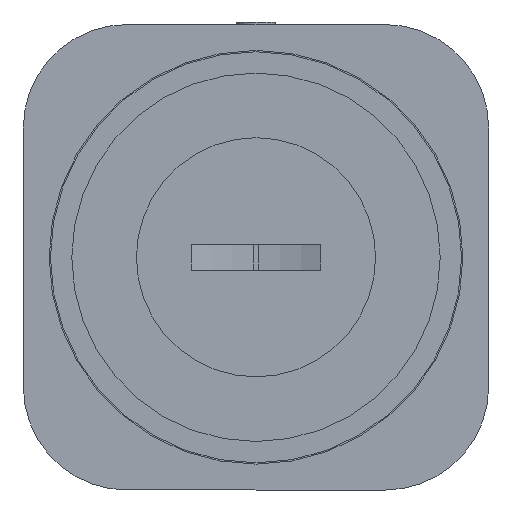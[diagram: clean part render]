
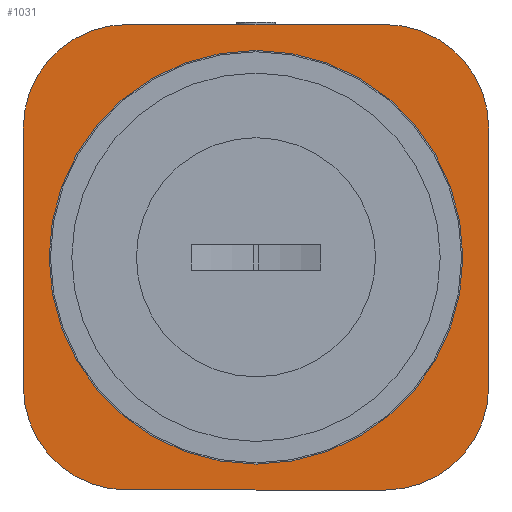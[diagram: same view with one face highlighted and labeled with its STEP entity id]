
A CAD part, front view. The second image highlights one B-rep face of the part: STEP entity #1031.
In plain terms, the highlighted planar face has unit normal (0, -1, 0).
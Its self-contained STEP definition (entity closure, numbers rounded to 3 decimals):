
#18=FACE_BOUND('',#137,.T.);
#31=PLANE('',#1118);
#71=FACE_OUTER_BOUND('',#136,.T.);
#136=EDGE_LOOP('',(#725,#726,#727,#728,#729,#730,#731,#732));
#137=EDGE_LOOP('',(#733));
#211=LINE('',#1602,#305);
#212=LINE('',#1606,#306);
#213=LINE('',#1610,#307);
#214=LINE('',#1613,#308);
#305=VECTOR('',#1270,10.);
#306=VECTOR('',#1273,10.);
#307=VECTOR('',#1276,10.);
#308=VECTOR('',#1279,10.);
#395=CIRCLE('',#1115,16.);
#397=CIRCLE('',#1119,8.);
#398=CIRCLE('',#1120,8.);
#399=CIRCLE('',#1121,8.);
#400=CIRCLE('',#1122,8.);
#455=VERTEX_POINT('',#1591);
#457=VERTEX_POINT('',#1598);
#458=VERTEX_POINT('',#1599);
#459=VERTEX_POINT('',#1601);
#460=VERTEX_POINT('',#1603);
#461=VERTEX_POINT('',#1605);
#462=VERTEX_POINT('',#1607);
#463=VERTEX_POINT('',#1609);
#464=VERTEX_POINT('',#1611);
#560=EDGE_CURVE('',#455,#455,#395,.T.);
#563=EDGE_CURVE('',#457,#458,#397,.T.);
#564=EDGE_CURVE('',#457,#459,#211,.T.);
#565=EDGE_CURVE('',#460,#459,#398,.T.);
#566=EDGE_CURVE('',#460,#461,#212,.T.);
#567=EDGE_CURVE('',#462,#461,#399,.T.);
#568=EDGE_CURVE('',#462,#463,#213,.T.);
#569=EDGE_CURVE('',#464,#463,#400,.T.);
#570=EDGE_CURVE('',#464,#458,#214,.T.);
#725=ORIENTED_EDGE('',*,*,#563,.F.);
#726=ORIENTED_EDGE('',*,*,#564,.T.);
#727=ORIENTED_EDGE('',*,*,#565,.F.);
#728=ORIENTED_EDGE('',*,*,#566,.T.);
#729=ORIENTED_EDGE('',*,*,#567,.F.);
#730=ORIENTED_EDGE('',*,*,#568,.T.);
#731=ORIENTED_EDGE('',*,*,#569,.F.);
#732=ORIENTED_EDGE('',*,*,#570,.T.);
#733=ORIENTED_EDGE('',*,*,#560,.T.);
#1031=ADVANCED_FACE('',(#71,#18),#31,.F.);
#1115=AXIS2_PLACEMENT_3D('',#1592,#1259,#1260);
#1118=AXIS2_PLACEMENT_3D('',#1597,#1266,#1267);
#1119=AXIS2_PLACEMENT_3D('',#1600,#1268,#1269);
#1120=AXIS2_PLACEMENT_3D('',#1604,#1271,#1272);
#1121=AXIS2_PLACEMENT_3D('',#1608,#1274,#1275);
#1122=AXIS2_PLACEMENT_3D('',#1612,#1277,#1278);
#1259=DIRECTION('center_axis',(0.,1.,0.));
#1260=DIRECTION('ref_axis',(1.,0.,0.));
#1266=DIRECTION('center_axis',(0.,1.,0.));
#1267=DIRECTION('ref_axis',(1.,0.,0.));
#1268=DIRECTION('center_axis',(0.,1.,0.));
#1269=DIRECTION('ref_axis',(1.,0.,0.));
#1270=DIRECTION('',(0.,0.,1.));
#1271=DIRECTION('center_axis',(0.,1.,0.));
#1272=DIRECTION('ref_axis',(0.,0.,1.));
#1273=DIRECTION('',(-1.,0.,0.));
#1274=DIRECTION('center_axis',(0.,1.,0.));
#1275=DIRECTION('ref_axis',(-1.,0.,0.));
#1276=DIRECTION('',(0.,0.,-1.));
#1277=DIRECTION('center_axis',(0.,1.,0.));
#1278=DIRECTION('ref_axis',(0.,0.,-1.));
#1279=DIRECTION('',(1.,0.,0.));
#1591=CARTESIAN_POINT('',(2.,0.,18.));
#1592=CARTESIAN_POINT('Origin',(18.,0.,18.));
#1597=CARTESIAN_POINT('Origin',(18.,0.,18.));
#1598=CARTESIAN_POINT('',(36.,0.,8.));
#1599=CARTESIAN_POINT('',(28.,0.,0.));
#1600=CARTESIAN_POINT('Origin',(28.,0.,8.));
#1601=CARTESIAN_POINT('',(36.,0.,28.));
#1602=CARTESIAN_POINT('',(36.,0.,8.));
#1603=CARTESIAN_POINT('',(28.,0.,36.));
#1604=CARTESIAN_POINT('Origin',(28.,0.,28.));
#1605=CARTESIAN_POINT('',(8.,0.,36.));
#1606=CARTESIAN_POINT('',(28.,0.,36.));
#1607=CARTESIAN_POINT('',(0.,0.,28.));
#1608=CARTESIAN_POINT('Origin',(8.,0.,28.));
#1609=CARTESIAN_POINT('',(0.,0.,8.));
#1610=CARTESIAN_POINT('',(0.,0.,28.));
#1611=CARTESIAN_POINT('',(8.,0.,0.));
#1612=CARTESIAN_POINT('Origin',(8.,0.,8.));
#1613=CARTESIAN_POINT('',(8.,0.,0.));
